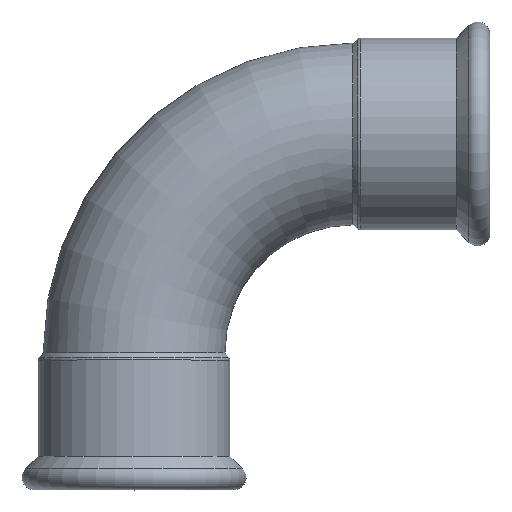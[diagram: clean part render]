
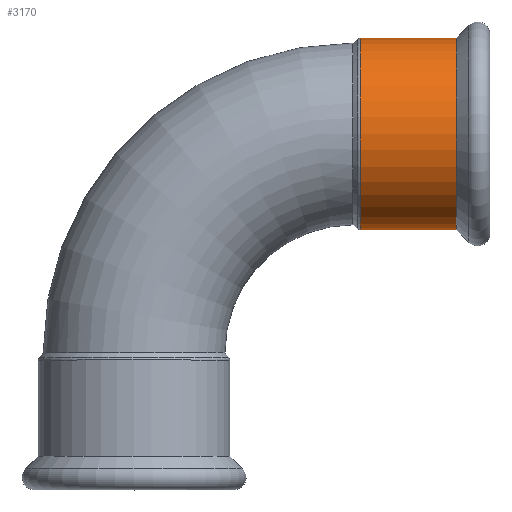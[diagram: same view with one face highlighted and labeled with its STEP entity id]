
A CAD part, top view. The second image highlights one B-rep face of the part: STEP entity #3170.
In plain terms, the highlighted cylindrical face has radius 46.85 mm (diameter 93.7 mm), a partial arc.
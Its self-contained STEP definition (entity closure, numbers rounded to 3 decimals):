
#1780=CARTESIAN_POINT('',(54.615,-46.85,0.));
#1790=VERTEX_POINT('',#1780);
#1970=CARTESIAN_POINT('',(54.615,46.85,0.))
;
#1980=VERTEX_POINT('',#1970);
#2010=CARTESIAN_POINT('',(54.615,0.,0.));
#2020=DIRECTION('',(1.,0.,0.));
#2030=DIRECTION('',(0.,1.,0.));
#2040=AXIS2_PLACEMENT_3D('',#2010,#2020,#2030);
#2050=CIRCLE('',#2040,46.85);
#2850=CARTESIAN_POINT('',(45.44,0.,0.));
#2860=DIRECTION('',(-1.,0.,0.));
#2870=DIRECTION('',(0.,1.,0.));
#2880=AXIS2_PLACEMENT_3D('',#2850,#2860,#2870);
#2890=CYLINDRICAL_SURFACE('',#2880,46.85);
#2900=CARTESIAN_POINT('',(45.44,46.85,0.));
#2910=DIRECTION('',(-1.,0.,0.));
#2920=VECTOR('',#2910,1.);
#2930=LINE('',#2900,#2920);
#2940=CARTESIAN_POINT('',(7.588,46.85,0.));
#2950=VERTEX_POINT('',#2940);
#2960=EDGE_CURVE('',#1980,#2950,#2930,.T.);
#2970=ORIENTED_EDGE('',*,*,#2960,.T.);
#2980=EDGE_CURVE('',#1980,#1790,#2050,.T.);
#2990=ORIENTED_EDGE('',*,*,#2980,.F.);
#3000=CARTESIAN_POINT('',(45.44,-46.85,0.)
);
#3010=DIRECTION('',(-1.,0.,0.));
#3020=VECTOR('',#3010,1.);
#3030=LINE('',#3000,#3020);
#3040=CARTESIAN_POINT('',(7.588,-46.85,0.));
#3050=VERTEX_POINT('',#3040);
#3060=EDGE_CURVE('',#1790,#3050,#3030,.T.);
#3070=ORIENTED_EDGE('',*,*,#3060,.F.);
#3080=CARTESIAN_POINT('',(7.588,0.,0.));
#3090=DIRECTION('',(-1.,0.,0.));
#3100=DIRECTION('',(0.,1.,0.));
#3110=AXIS2_PLACEMENT_3D('',#3080,#3090,#3100);
#3120=CIRCLE('',#3110,46.85);
#3130=EDGE_CURVE('',#3050,#2950,#3120,.T.);
#3140=ORIENTED_EDGE('',*,*,#3130,.F.);
#3150=EDGE_LOOP('',(#3140,#3070,#2990,#2970));
#3160=FACE_OUTER_BOUND('',#3150,.T.);
#3170=ADVANCED_FACE('',(#3160),#2890,.T.);
